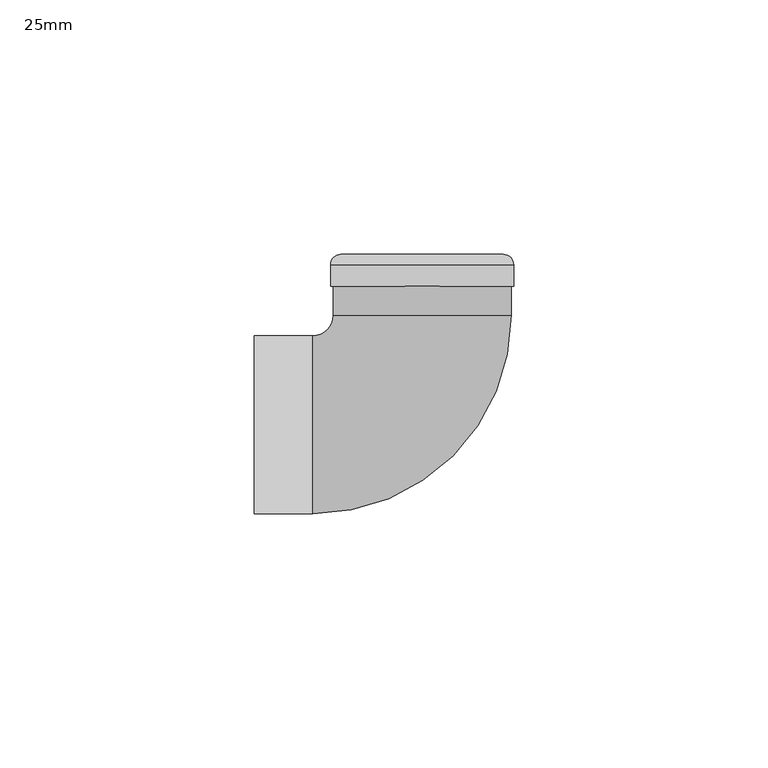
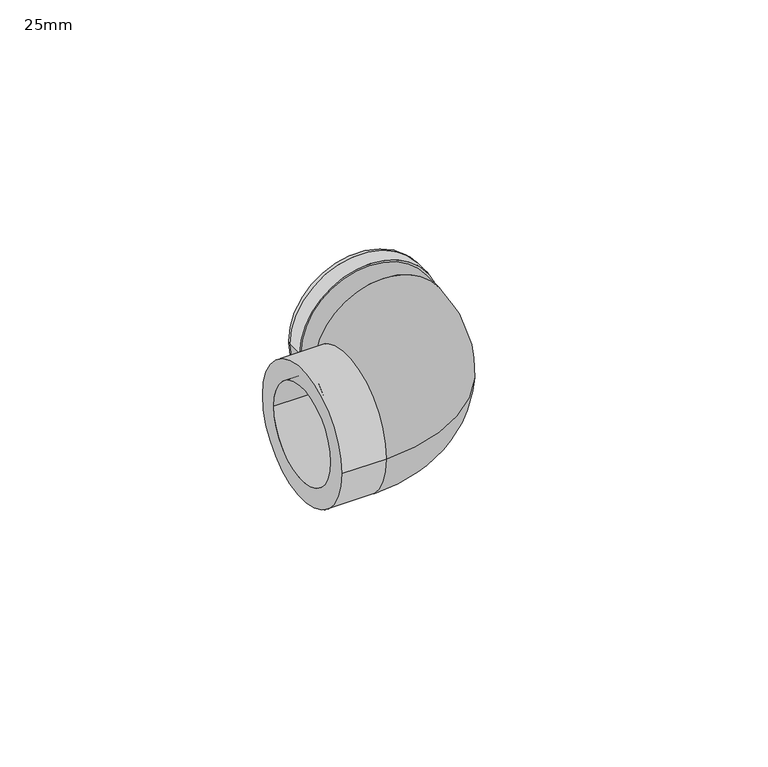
"""IFC4 building model written with IfcOpenShell, lengths in millimetres: pipe fitting geometry, Durapipe_PipeFitting_PVC_PlainThreadedElbows90Deg : 25mm."""

from ifc_helpers import new_model, si_unit, point, frame, origin, place, context, project, spatial, polyline, circle_curve, ellipse_curve, trimmed, source, transform, mapped, element, save
from ifc_brep_helpers import plane_surface, cylinder_surface, revolved_surface, advanced_brep


def pipe_fitting_25mm_f7139507(model_context):
    return source(origin(), model_context, "Body", "AdvancedBrep", [
        advanced_brep(
        [(-17.5, 27.2, 0.0), (17.5, 27.2, 0.0), (12.5, 27.2, 0.0), (-12.5, 27.2, 0.0), (-33.0, 17.5, 0.0), (-33.0, -17.5, 0.0), (-33.0, 12.5, 0.0), (-33.0, -12.5, 0.0), (-17.5, 21.5, 0.0), (17.5, 21.5, 0.0), (-21.5, 17.5, 0.0), (-21.5, -17.5, 0.0), (-13.5, -12.5, 0.0), (-13.5, 12.5, 0.0), (-12.5, 14.7, 0.0), (12.5, 14.7, 0.0)],
        [
            (0, 1, circle_curve(frame((0.0, 27.2, 0.0), z_axis=(0.0, 1.0, 0.0), x_axis=(1.0, 0.0, 0.0)), 17.5)),
            (1, 0, circle_curve(frame((0.0, 27.2, 0.0), z_axis=(0.0, 1.0, 0.0), x_axis=(1.0, 0.0, 0.0)), 17.5)),
            (2, 3, circle_curve(frame((0.0, 27.2, 0.0), z_axis=(0.0, -1.0, 0.0), x_axis=(1.0, 0.0, 0.0)), 12.5)),
            (3, 2, circle_curve(frame((0.0, 27.2, 0.0), z_axis=(0.0, -1.0, 0.0), x_axis=(1.0, 0.0, 0.0)), 12.5)),
            (4, 5, circle_curve(frame((-33.0, 0.0, 0.0), z_axis=(-1.0, 0.0, 0.0), x_axis=(0.0, -1.0, 0.0)), 17.5)),
            (5, 4, circle_curve(frame((-33.0, 0.0, 0.0), z_axis=(-1.0, 0.0, 0.0), x_axis=(0.0, -1.0, 0.0)), 17.5)),
            (6, 7, circle_curve(frame((-33.0, 0.0, 0.0), z_axis=(1.0, 0.0, 0.0), x_axis=(0.0, 1.0, 0.0)), 12.5)),
            (7, 6, circle_curve(frame((-33.0, 0.0, 0.0), z_axis=(1.0, 0.0, 0.0), x_axis=(0.0, 1.0, 0.0)), 12.5)),
            (0, 8),
            (8, 9, circle_curve(frame((0.0, 21.5, 0.0), z_axis=(0.0, 1.0, 0.0), x_axis=(1.0, 0.0, 0.0)), 17.5)),
            (9, 1),
            (9, 8, circle_curve(frame((0.0, 21.5, 0.0), z_axis=(0.0, 1.0, 0.0), x_axis=(1.0, 0.0, 0.0)), 17.5)),
            (8, 10, circle_curve(frame((-21.5, 21.5, 0.0), z_axis=(0.0, 0.0, -1.0), x_axis=(1.0, 0.0, 0.0)), 4.0)),
            (10, 11, circle_curve(frame((-21.5, 0.0, 0.0), z_axis=(1.0, 0.0, 0.0), x_axis=(0.0, -1.0, 0.0)), 17.5)),
            (11, 9, circle_curve(frame((-21.5, 21.5, 0.0), z_axis=(0.0, 0.0, 1.0), x_axis=(1.0, 0.0, 0.0)), 39.0)),
            (11, 10, circle_curve(frame((-21.5, 0.0, 0.0), z_axis=(1.0, 0.0, 0.0), x_axis=(0.0, -1.0, 0.0)), 17.5)),
            (5, 11),
            (10, 4),
            (12, 13, circle_curve(frame((-13.5, 0.0, 0.0), z_axis=(-1.0, 0.0, 0.0), x_axis=(0.0, 1.0, 0.0)), 12.5)),
            (13, 12, circle_curve(frame((-13.5, 0.0, 0.0), z_axis=(-1.0, 0.0, 0.0), x_axis=(0.0, 1.0, 0.0)), 12.5)),
            (12, 7),
            (6, 13),
            (14, 15, circle_curve(frame((0.0, 14.7, 0.0), z_axis=(0.0, 1.0, 0.0), x_axis=(1.0, 0.0, 0.0)), 12.5)),
            (15, 14, circle_curve(frame((0.0, 14.7, 0.0), z_axis=(0.0, 1.0, 0.0), x_axis=(1.0, 0.0, 0.0)), 12.5)),
            (14, 3),
            (2, 15),
        ],
        [
            plane_surface(frame((0.0, 27.2, 0.0), z_axis=(0.0, 1.0, 0.0), x_axis=(0.0, 0.0, 1.0))),
            plane_surface(frame((-33.0, 0.0, 0.0), z_axis=(-1.0, 0.0, 0.0), x_axis=(0.0, 0.0, 1.0))),
            cylinder_surface(frame((0.0, 27.2, 0.0), z_axis=(0.0, 1.0, 0.0), x_axis=(1.0, 0.0, 0.0)), 17.5),
            revolved_surface(trimmed(ellipse_curve(frame((0.0, 21.5, 0.0), z_axis=(0.0, 1.0, 0.0), x_axis=(1.0, 0.0, 0.0)), 17.5, 17.5), [point((-17.5, 21.5, 0.0))], [point((17.5, 21.5, 0.0))], True, "CARTESIAN"), (-21.5, 21.5, 0.0), (0.0, 0.0, -1.0)),
            revolved_surface(trimmed(ellipse_curve(frame((0.0, 21.5, 0.0), z_axis=(0.0, 1.0, 0.0), x_axis=(1.0, 0.0, 0.0)), 17.5, 17.5), [point((17.5, 21.5, 0.0))], [point((-17.5, 21.5, 0.0))], True, "CARTESIAN"), (-21.5, 21.5, 0.0), (0.0, 0.0, -1.0)),
            cylinder_surface(frame((-21.5, 0.0, 0.0), z_axis=(1.0, 0.0, 0.0), x_axis=(0.0, -1.0, 0.0)), 17.5),
            plane_surface(frame((-13.5, 0.0, 0.0), z_axis=(-1.0, 0.0, 0.0), x_axis=(0.0, 0.0, 1.0))),
            revolved_surface(polyline([(-33.0, 12.5, 0.0), (-13.5, 12.5, 0.0)]), (-33.0, 0.0, 0.0), (-1.0, 0.0, 0.0)),
            plane_surface(frame((0.0, 14.7, 0.0), z_axis=(0.0, 1.0, 0.0), x_axis=(0.0, 0.0, 1.0))),
            revolved_surface(polyline([(12.5, 27.2, 0.0), (12.5, 14.7, 0.0)]), (0.0, 33.5, 0.0), (0.0, 1.0, 0.0)),
        ],
        [
            (0, [[1, 2], [3, 4]]),
            (1, [[5, 6], [7, 8]]),
            (2, [[-1, 9, 10, 11]]),
            (2, [[-2, -11, 12, -9]]),
            (3, [[-10, 13, 14, 15]]),
            (4, [[-12, -15, 16, -13]]),
            (5, [[-6, 17, -14, 18]]),
            (5, [[-5, -18, -16, -17]]),
            (6, [[19, 20]]),
            (7, [[-19, 21, -7, 22]]),
            (7, [[-20, -22, -8, -21]]),
            (8, [[23, 24]]),
            (9, [[-23, 25, -3, 26]]),
            (9, [[-24, -26, -4, -25]]),
        ],
    ),
        advanced_brep(
        [(15.9754699, 33.5, 0.0), (-15.9754699, 33.5, 0.0), (-12.5, 33.5, 0.0), (12.5, 33.5, 0.0), (18.0, 31.4754699, 0.0), (-18.0, 31.4754699, 0.0), (18.0, 27.2, 0.0), (-18.0, 27.2, 0.0), (12.5, 27.2, 0.0), (-12.5, 27.2, 0.0)],
        [
            (0, 1, circle_curve(frame((0.0, 33.5, 0.0), z_axis=(0.0, 1.0, 0.0), x_axis=(-1.0, 0.0, 0.0)), 15.9754699)),
            (1, 2),
            (2, 3, circle_curve(frame((0.0, 33.5, 0.0), z_axis=(0.0, -1.0, 0.0), x_axis=(-1.0, 0.0, 0.0)), 12.5)),
            (3, 0),
            (1, 0, circle_curve(frame((0.0, 33.5, 0.0), z_axis=(0.0, 1.0, 0.0), x_axis=(-1.0, 0.0, 0.0)), 15.9754699)),
            (3, 2, circle_curve(frame((0.0, 33.5, 0.0), z_axis=(0.0, -1.0, 0.0), x_axis=(-1.0, 0.0, 0.0)), 12.5)),
            (4, 5, circle_curve(frame((0.0, 31.4754699, 0.0), z_axis=(0.0, 1.0, 0.0), x_axis=(-1.0, 0.0, 0.0)), 18.0)),
            (5, 1, circle_curve(frame((-15.9754699, 31.4754699, 0.0), z_axis=(0.0, 0.0, -1.0), x_axis=(1.0, 0.0, 0.0)), 2.0245301)),
            (0, 4, circle_curve(frame((15.9754699, 31.4754699, 0.0), z_axis=(0.0, 0.0, -1.0), x_axis=(-1.0, 0.0, 0.0)), 2.0245301)),
            (5, 4, circle_curve(frame((0.0, 31.4754699, 0.0), z_axis=(0.0, 1.0, 0.0), x_axis=(-1.0, 0.0, 0.0)), 18.0)),
            (6, 7, circle_curve(frame((0.0, 27.2, 0.0), z_axis=(0.0, 1.0, 0.0), x_axis=(-1.0, 0.0, 0.0)), 18.0)),
            (7, 5),
            (4, 6),
            (7, 6, circle_curve(frame((0.0, 27.2, 0.0), z_axis=(0.0, 1.0, 0.0), x_axis=(-1.0, 0.0, 0.0)), 18.0)),
            (8, 9, circle_curve(frame((0.0, 27.2, 0.0), z_axis=(0.0, 1.0, 0.0), x_axis=(-1.0, 0.0, 0.0)), 12.5)),
            (9, 7),
            (6, 8),
            (9, 8, circle_curve(frame((0.0, 27.2, 0.0), z_axis=(0.0, 1.0, 0.0), x_axis=(-1.0, 0.0, 0.0)), 12.5)),
            (2, 9),
            (8, 3),
        ],
        [
            plane_surface(frame((0.0, 33.5, 0.0), z_axis=(0.0, 1.0, 0.0), x_axis=(-1.0, 0.0, 0.0))),
            revolved_surface(trimmed(ellipse_curve(frame((-15.9754699, 31.4754699, 0.0), z_axis=(0.0, 0.0, 1.0), x_axis=(1.0, 0.0, 0.0)), 2.0245301, 2.0245301), [point((-15.9754699, 33.5, 0.0))], [point((-18.0, 31.4754699, 0.0))], True, "CARTESIAN"), (0.0, 46.2371208, 0.0), (0.0, -1.0, 0.0)),
            cylinder_surface(frame((0.0, 46.2371208, 0.0), z_axis=(0.0, -1.0, 0.0), x_axis=(-1.0, 0.0, 0.0)), 18.0),
            plane_surface(frame((0.0, 27.2, 0.0), z_axis=(0.0, -1.0, 0.0), x_axis=(-1.0, 0.0, 0.0))),
            revolved_surface(polyline([(-12.5, 27.2, 0.0), (-12.5, 33.5, 0.0)]), (0.0, 46.2371208, 0.0), (0.0, -1.0, 0.0)),
        ],
        [
            (0, [[1, 2, 3, 4]]),
            (0, [[5, -4, 6, -2]]),
            (1, [[7, 8, -1, 9]]),
            (1, [[10, -9, -5, -8]]),
            (2, [[11, 12, -7, 13]]),
            (2, [[14, -13, -10, -12]]),
            (3, [[15, 16, -11, 17]]),
            (3, [[18, -17, -14, -16]]),
            (4, [[-3, 19, -15, 20]]),
            (4, [[-6, -20, -18, -19]]),
        ],
    ),
    ])


if __name__ == "__main__":
    model = new_model("IFC4")
    model_context = context("Model", 3, world=origin())
    ifc_project = project(units=[si_unit("LENGTHUNIT", "METRE", prefix="MILLI")], contexts=[model_context])
    site = spatial("IfcSite", under=ifc_project)
    building = spatial("IfcBuilding", under=site)
    placement = place(None, origin())
    pipe_fitting_25mm_shape = pipe_fitting_25mm_f7139507(model_context)
    element("IfcPipeFitting", 1, ObjectType="Durapipe_PipeFitting_PVC_PlainThreadedElbows90Deg : 25mm", at=placement, inside=building, context=model_context, shape_type="MappedRepresentation", body=[
        mapped(pipe_fitting_25mm_shape, transform((0.0, 0.0, 0.0), x_axis=(1.0, 0.0, 0.0), y_axis=(0.0, 1.0, 0.0), z_axis=(0.0, 0.0, 1.0))),
    ])
    save(model, "model.ifc")
